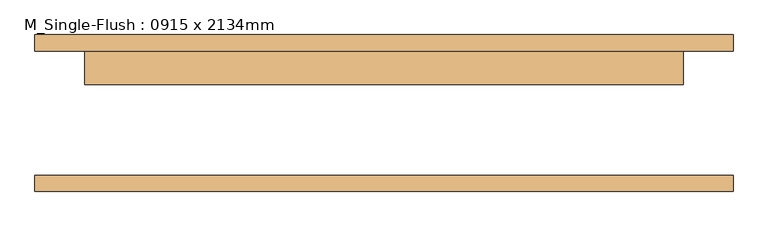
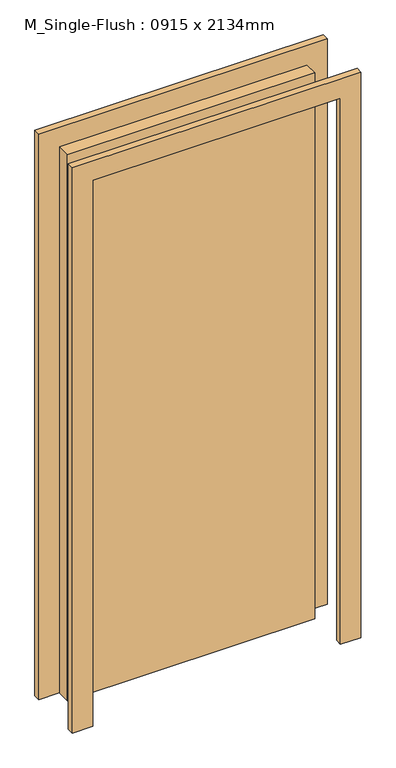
"""IFC4 building model written with IfcOpenShell, lengths in millimetres: door geometry, M_Single-Flush : 0915 x 2134mm."""

from ifc_helpers import new_model, si_unit, frame, origin, origin_with_axes, place, context, project, spatial, polyline, outline, extrude, source, transform, mapped, element, save


def m_single_flush_0915_x_2134mm_f5238887(model_context):
    return source(origin(), model_context, "Body", "SweptSolid", [
        extrude(outline(polyline([(2210.0, -533.5), (0.0, -533.5), (0.0, -457.5), (2134.0, -457.5), (2134.0, 457.5), (0.0, 457.5), (0.0, 533.5), (2210.0, 533.5), (2210.0, -533.5)])), frame((0.0, 95.0, 0.0), z_axis=(0.0, 1.0, 0.0), x_axis=(0.0, 0.0, 1.0)), (0.0, 0.0, 1.0), 25.0),
        extrude(outline(polyline([(2210.0, 533.5), (2210.0, -533.5), (0.0, -533.5), (0.0, -457.5), (2134.0, -457.5), (2134.0, 457.5), (0.0, 457.5), (0.0, 533.5), (2210.0, 533.5)])), frame((0.0, -120.0, 0.0), z_axis=(0.0, 1.0, 0.0), x_axis=(0.0, 0.0, 1.0)), (0.0, 0.0, 1.0), 25.0),
        extrude(outline(polyline([(457.5, 44.0), (-457.5, 44.0), (-457.5, 95.0), (457.5, 95.0), (457.5, 44.0)])), origin_with_axes(), (0.0, 0.0, 1.0), 2134.0),
    ])


if __name__ == "__main__":
    model = new_model("IFC4")
    model_context = context("Model", 3, world=origin())
    ifc_project = project(units=[si_unit("LENGTHUNIT", "METRE", prefix="MILLI")], contexts=[model_context])
    site = spatial("IfcSite", under=ifc_project)
    building = spatial("IfcBuilding", under=site)
    placement = place(None, origin())
    m_single_flush_0915_x_2134mm_shape = m_single_flush_0915_x_2134mm_f5238887(model_context)
    element("IfcDoor", 1, ObjectType="M_Single-Flush : 0915 x 2134mm", at=placement, inside=building, context=model_context, shape_type="MappedRepresentation", body=[
        mapped(m_single_flush_0915_x_2134mm_shape, transform((0.0, 0.0, 0.0), x_axis=(1.0, 0.0, 0.0), y_axis=(0.0, 1.0, 0.0), z_axis=(0.0, 0.0, 1.0))),
    ])
    save(model, "model.ifc")
